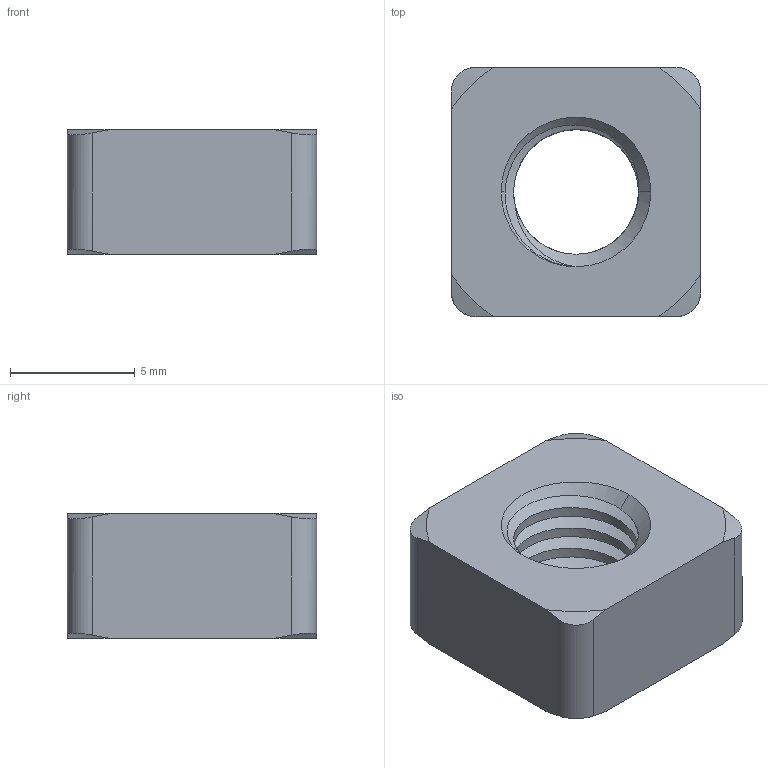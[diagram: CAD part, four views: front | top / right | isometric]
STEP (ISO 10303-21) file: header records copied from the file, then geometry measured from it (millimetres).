
FILE_DESCRIPTION (( 'STEP AP203' ), '1' );
FILE_NAME ('130-CE-EQN-30.STEP', '2015-07-09T08:58:00', ( '' ), ( '' ), 'SwSTEP 2.0', 'SolidWorks 2013', '' );
FILE_SCHEMA (( 'CONFIG_CONTROL_DESIGN' ));
Length unit declared in the file: millimetre
Products named in the file (1): 130-CE-EQN-30
Bounding box: 10 x 10 x 5 mm (x, y, z)
Volume: 382.4 mm3; surface area: 464.5 mm2
Topology: 1 solids, 1 shells, 35 faces, 95 edges, 62 vertices
Faces by surface type: cone 14, cylinder 13, plane 6, bspline 2
Entity records: 2203 total; most frequent: CARTESIAN_POINT 1351, ORIENTED_EDGE 190, DIRECTION 128, EDGE_CURVE 95, VERTEX_POINT 62, AXIS2_PLACEMENT_3D 50, EDGE_LOOP 37, ADVANCED_FACE 35
